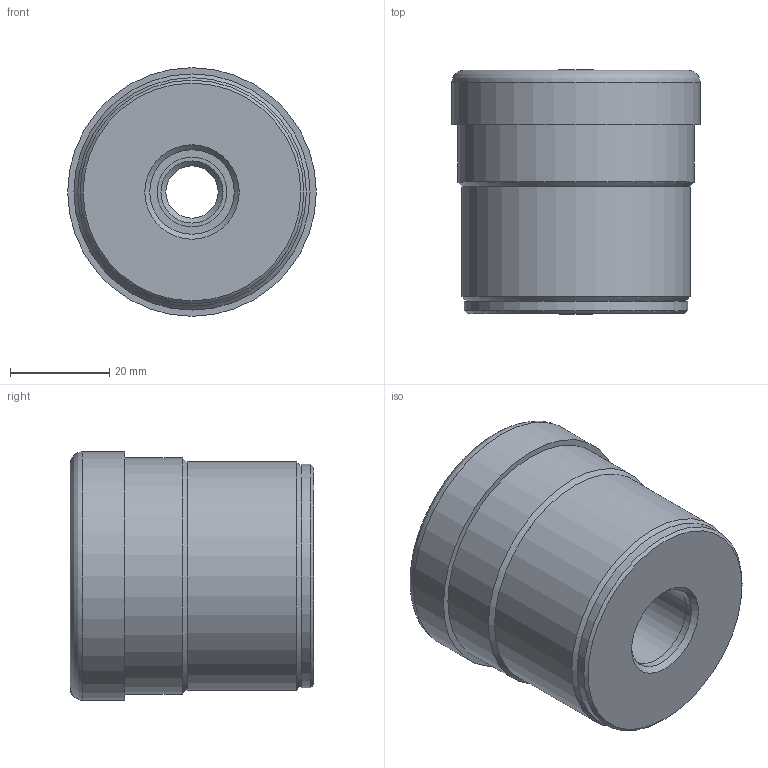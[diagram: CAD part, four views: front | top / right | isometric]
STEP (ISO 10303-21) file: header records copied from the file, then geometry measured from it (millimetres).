
FILE_DESCRIPTION(('STEP AP203'),'2;1');
FILE_NAME('17018.stp','2016-12-13T09:11:21',(''),(''),'2008.1.107','THINKDESIGN','');
FILE_SCHEMA(('CONFIG_CONTROL_DESIGN'));
Length unit declared in the file: millimetre
Bounding box: 50 x 49 x 50 mm (x, y, z)
Volume: 76750.2 mm3; surface area: 22845.4 mm2
Topology: 4 solids, 4 shells, 29 faces, 77 edges, 58 vertices
Faces by surface type: plane 10, cylinder 10, bspline 9
Full cylindrical faces by diameter (mm): 10.5 x1, 14 x1, 17 x2, 18.9 x1, 19.2 x1, 45 x1, 46 x1, 47.5 x1, 50 x1
Entity records: 2306 total; most frequent: CARTESIAN_POINT 1424, DIRECTION 176, ORIENTED_EDGE 154, AXIS2_PLACEMENT_3D 79, EDGE_CURVE 77, CIRCLE 59, VERTEX_POINT 58, EDGE_LOOP 39
